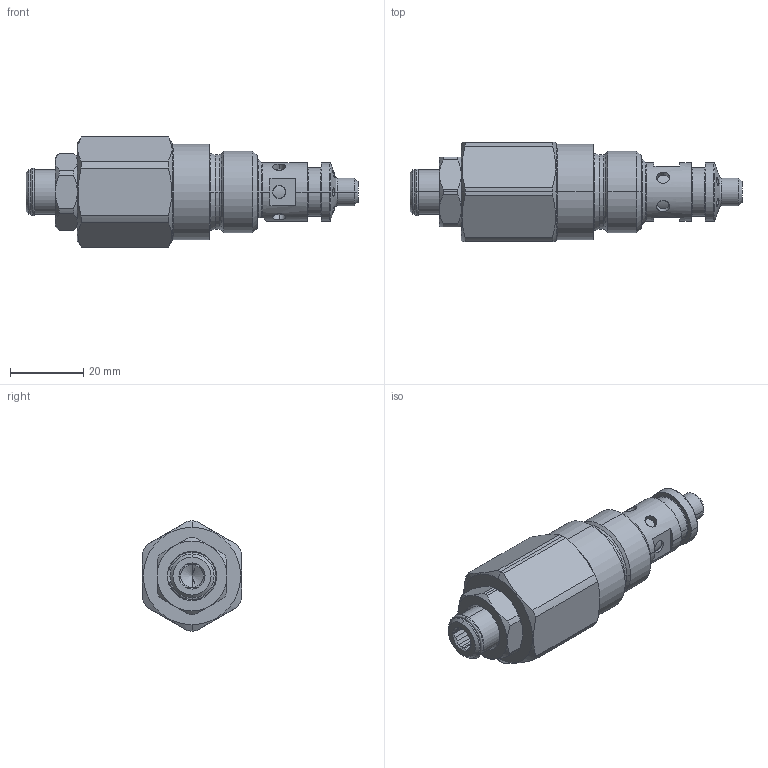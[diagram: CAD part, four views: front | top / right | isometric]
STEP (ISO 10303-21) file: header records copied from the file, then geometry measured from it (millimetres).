
FILE_DESCRIPTION (( 'STEP AP214' ), '1' );
FILE_NAME ('BESPU10-63.STEP', '2015-07-22T08:23:23', ( '' ), ( '' ), 'SwSTEP 2.0', 'SolidWorks 2014', '' );
FILE_SCHEMA (( 'AUTOMOTIVE_DESIGN' ));
Length unit declared in the file: millimetre
Products named in the file (2): BESPU10-63
Bounding box: 90.5 x 27 x 30 mm (x, y, z)
Volume: 32704.9 mm3; surface area: 7818 mm2
Topology: 2 solids, 3 shells, 204 faces, 468 edges, 284 vertices
Faces by surface type: cylinder 74, plane 56, cone 43, torus 31
Entity records: 8772 total; most frequent: CARTESIAN_POINT 2078, DIRECTION 988, ORIENTED_EDGE 928, EDGE_CURVE 464, AXIS2_PLACEMENT_3D 416, VERTEX_POINT 284, EDGE_LOOP 222, CIRCLE 210
